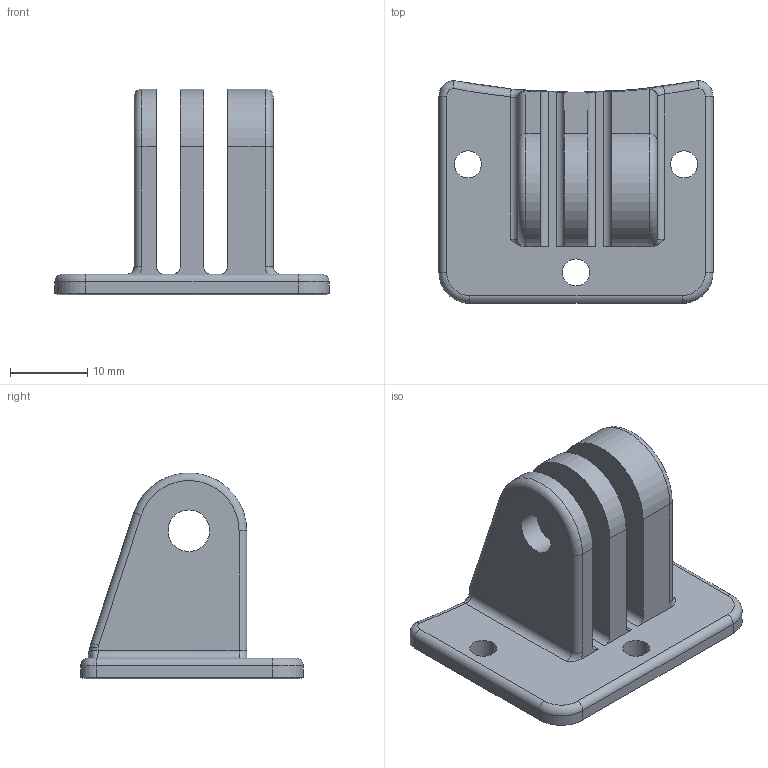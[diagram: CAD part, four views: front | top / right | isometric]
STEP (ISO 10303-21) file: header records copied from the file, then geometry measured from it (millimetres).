
FILE_DESCRIPTION(/* description */ (''),/* implementation_level */ '2;1');
FILE_NAME(/* name */ 'C:/Users/nxa15528/Downloads/MCAD/NXP/Buggy3/B3-200-006 Camera base.step',/* time_stamp */ '2021-09-08T07:01:01-05:00',/* author */ (''),/* organization */ (''),/* preprocessor_version */ 'ST-DEVELOPER v18.1',/* originating_system */ 'Autodesk Translation Framework v10.10.0.1391',/* authorisation */ '');
FILE_SCHEMA (('AUTOMOTIVE_DESIGN { 1 0 10303 214 3 1 1 }'));
Length unit declared in the file: millimetre
Products named in the file (1): B3-200-006 Camera base
Bounding box: 35.5 x 28.85 x 26.68 mm (x, y, z)
Volume: 6665.5 mm3; surface area: 5038 mm2
Topology: 1 solids, 1 shells, 78 faces, 197 edges, 122 vertices
Faces by surface type: cylinder 28, plane 27, bspline 10, torus 8, cone 5
Full cylindrical faces by diameter (mm): 3.5 x3, 5.4 x3
Entity records: 2642 total; most frequent: CARTESIAN_POINT 714, ORIENTED_EDGE 394, DIRECTION 394, EDGE_CURVE 197, AXIS2_PLACEMENT_3D 150, VERTEX_POINT 122, LINE 94, VECTOR 94
